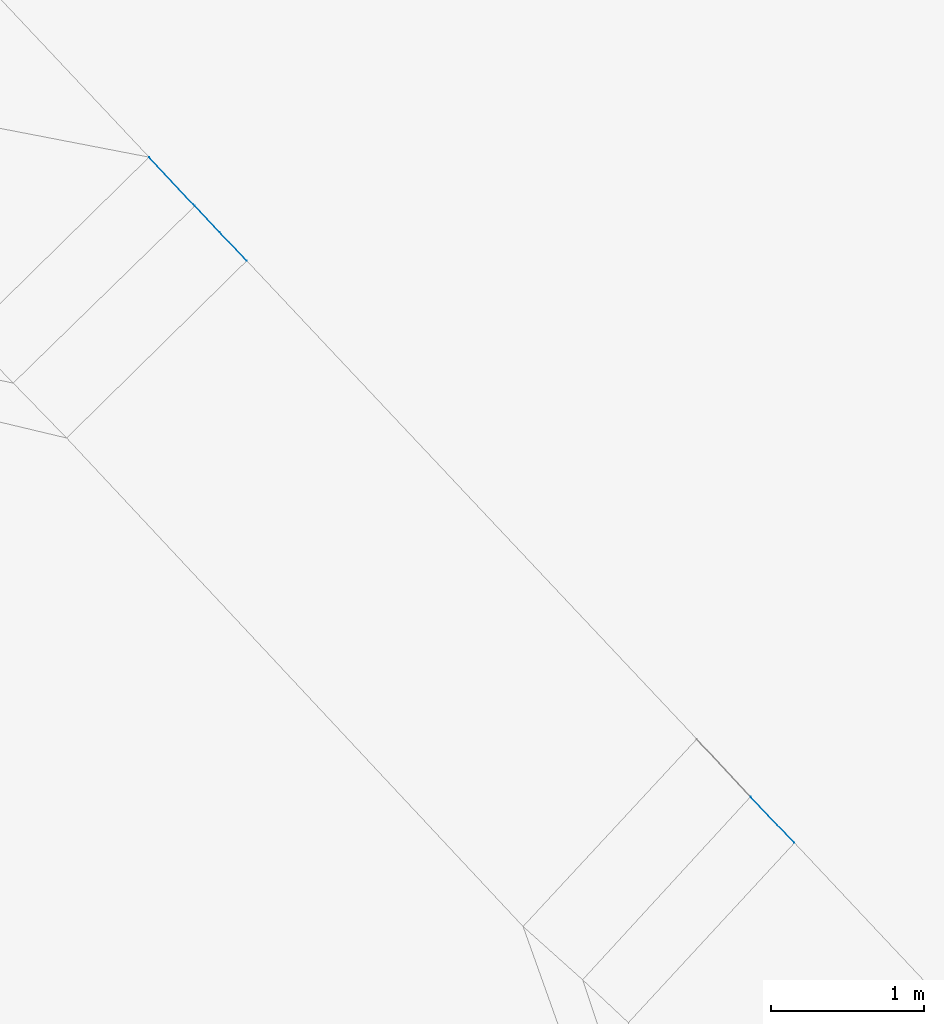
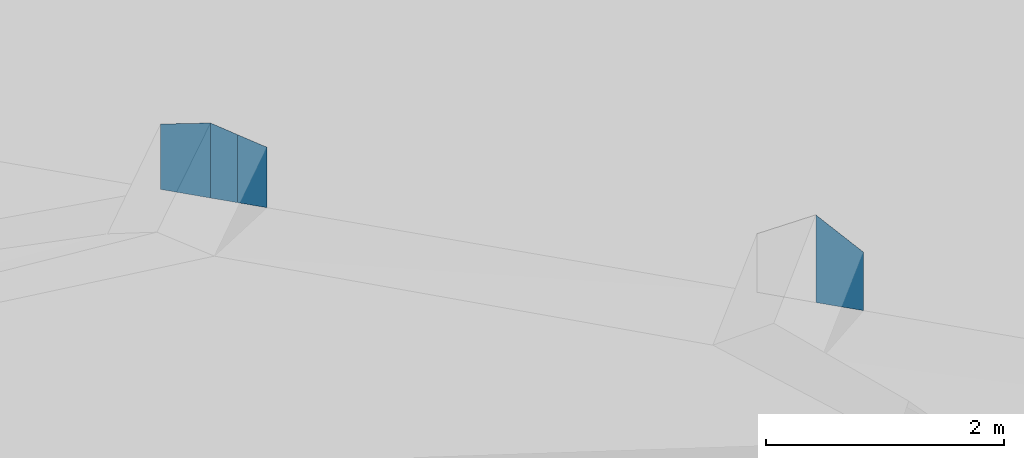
# Not in any storey, part 113 of 136: 4 walls.
"""IFC4 building model written with IfcOpenShell, lengths in metres."""

from ifc_helpers import new_model, entity, si_unit, converted_unit, origin, place, context, subcontext, project, spatial, face_set, surface_model, element, save


model = new_model("IFC4")

# Units and contexts
model_context = context("Model", 3, precision=1e-05, world=origin())
body_context = subcontext(model_context, "Body", "Model", "MODEL_VIEW")
ifc_project = project(units=[converted_unit("PLANEANGLEUNIT", "DEGREE", entity("IfcRatioMeasure", 0.0174532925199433), si_unit("PLANEANGLEUNIT", "RADIAN"), dimensions=[0, 0, 0, 0, 0, 0, 0]), si_unit("AREAUNIT", "SQUARE_METRE"), si_unit("LENGTHUNIT", "METRE")], contexts=[model_context])

# Site, building
site_placement = place(None, origin())
site = spatial("IfcSite", under=ifc_project, at=site_placement, Name="_site")
building_placement = place(site_placement, origin())
building = spatial("IfcBuilding", under=site, at=building_placement, Name="_building")

# Walls
wall_1_placement = place(building_placement, origin())
element("IfcWall", 1, at=wall_1_placement, inside=building, Name="Wall", PredefinedType="NOTDEFINED", context=body_context, shape_type="SurfaceModel", body=[
    surface_model("IfcFaceBasedSurfaceModel", [(13.44, 122.76, 51.55), (13.728, 122.458, 51.25), (13.728, 122.458, 50.65), (13.44, 122.76, 50.65)], [face_set([[[0, 1, 2, 3]]])]),
])
wall_2_placement = place(building_placement, origin())
element("IfcWall", 2, at=wall_2_placement, inside=building, Name="Wall", PredefinedType="NOTDEFINED", context=body_context, shape_type="SurfaceModel", body=[
    surface_model("IfcFaceBasedSurfaceModel", [(9.5, 126.95, 51.32), (9.8, 126.63, 51.42), (9.8, 126.63, 50.65), (9.5, 126.95, 50.65)], [face_set([[[0, 1, 2, 3]]])]),
])
wall_3_placement = place(building_placement, origin())
element("IfcWall", 3, at=wall_3_placement, inside=building, Name="Wall", PredefinedType="NOTDEFINED", context=body_context, shape_type="SurfaceModel", body=[
    surface_model("IfcFaceBasedSurfaceModel", [(9.962, 126.459, 51.348), (10.14, 126.271, 51.27), (10.14, 126.271, 50.65), (9.962, 126.459, 50.65)], [face_set([[[0, 1, 2, 3]]])]),
])
wall_4_placement = place(building_placement, origin())
element("IfcWall", 4, at=wall_4_placement, inside=building, Name="Wall", PredefinedType="NOTDEFINED", context=body_context, shape_type="SurfaceModel", body=[
    surface_model("IfcFaceBasedSurfaceModel", [(9.8, 126.63, 51.42), (9.962, 126.459, 51.348), (9.962, 126.459, 50.65), (9.8, 126.63, 50.65)], [face_set([[[0, 1, 2, 3]]])]),
])

save(model, "model.ifc")
